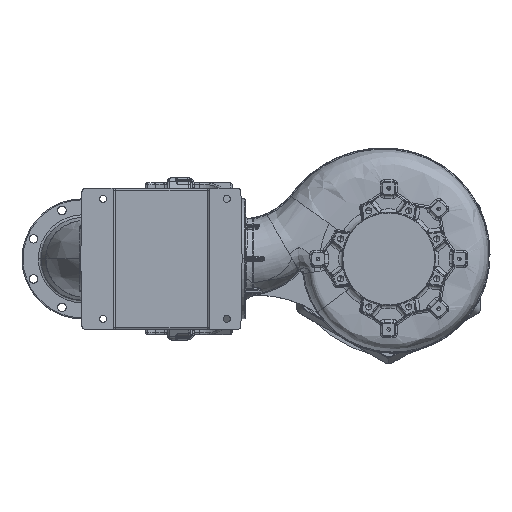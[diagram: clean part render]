
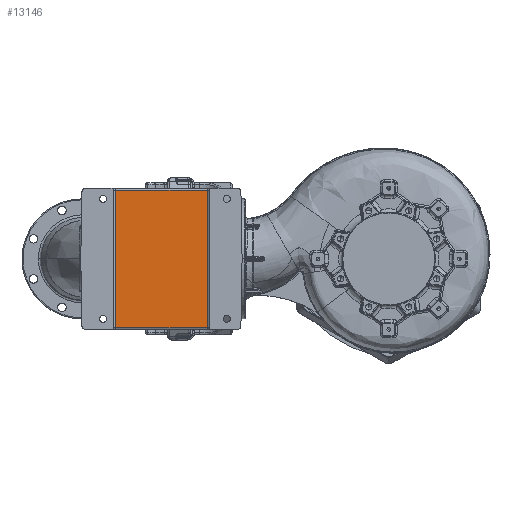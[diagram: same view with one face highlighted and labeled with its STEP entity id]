
A CAD part, front view. The second image highlights one B-rep face of the part: STEP entity #13146.
In plain terms, the highlighted planar face has unit normal (0, -1, 0).
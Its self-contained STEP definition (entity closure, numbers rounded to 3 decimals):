
#8100 = ORIENTED_EDGE ( 'NONE', *, *, #85807, .T. ) ;
#9623 = ORIENTED_EDGE ( 'NONE', *, *, #230051, .T. ) ;
#13146 = ADVANCED_FACE ( 'NONE', ( #120600 ), #285056, .F. ) ;
#25520 = CARTESIAN_POINT ( 'NONE',  ( -514., -666.702, 195. ) ) ;
#34393 = EDGE_CURVE ( 'NONE', #51552, #173764, #52680, .T. ) ;
#51552 = VERTEX_POINT ( 'NONE', #196863 ) ;
#52680 = LINE ( 'NONE', #71330, #222104 ) ;
#65168 = VECTOR ( 'NONE', #134781, 1000. ) ;
#67425 = AXIS2_PLACEMENT_3D ( 'NONE', #282088, #282044, #281792 ) ;
#71330 = CARTESIAN_POINT ( 'NONE',  ( -774., -666.702, -200. ) ) ;
#85807 = EDGE_CURVE ( 'NONE', #140492, #51552, #287356, .T. ) ;
#101903 = ORIENTED_EDGE ( 'NONE', *, *, #186442, .T. ) ;
#102237 = LINE ( 'NONE', #208579, #217387 ) ;
#117834 = DIRECTION ( 'NONE',  ( 0., 0., -1. ) ) ;
#120600 = FACE_OUTER_BOUND ( 'NONE', #122563, .T. ) ;
#122563 = EDGE_LOOP ( 'NONE', ( #101903, #9623, #8100, #150786 ) ) ;
#127473 = CARTESIAN_POINT ( 'NONE',  ( -774., -666.702, -195. ) ) ;
#134781 = DIRECTION ( 'NONE',  ( 1., 0., 0. ) ) ;
#140492 = VERTEX_POINT ( 'NONE', #25520 ) ;
#150786 = ORIENTED_EDGE ( 'NONE', *, *, #34393, .T. ) ;
#155138 = CARTESIAN_POINT ( 'NONE',  ( -779., -666.702, 195. ) ) ;
#161523 = DIRECTION ( 'NONE',  ( 0., 0., 1. ) ) ;
#165486 = VECTOR ( 'NONE', #178201, 1000. ) ;
#173764 = VERTEX_POINT ( 'NONE', #127473 ) ;
#178201 = DIRECTION ( 'NONE',  ( -1., 0., 0. ) ) ;
#184609 = VERTEX_POINT ( 'NONE', #249584 ) ;
#186442 = EDGE_CURVE ( 'NONE', #173764, #184609, #241716, .T. ) ;
#196863 = CARTESIAN_POINT ( 'NONE',  ( -774., -666.702, 195. ) ) ;
#208579 = CARTESIAN_POINT ( 'NONE',  ( -514., -666.702, 200. ) ) ;
#217387 = VECTOR ( 'NONE', #161523, 1000. ) ;
#222104 = VECTOR ( 'NONE', #117834, 1000. ) ;
#230051 = EDGE_CURVE ( 'NONE', #184609, #140492, #102237, .T. ) ;
#241716 = LINE ( 'NONE', #272306, #65168 ) ;
#249584 = CARTESIAN_POINT ( 'NONE',  ( -514., -666.702, -195. ) ) ;
#272306 = CARTESIAN_POINT ( 'NONE',  ( -509., -666.702, -195. ) ) ;
#281792 = DIRECTION ( 'NONE',  ( 0., 0., 1. ) ) ;
#282044 = DIRECTION ( 'NONE',  ( 0., 1., 0. ) ) ;
#282088 = CARTESIAN_POINT ( 'NONE',  ( -779., -666.702, -230. ) ) ;
#285056 = PLANE ( 'NONE',  #67425 ) ;
#287356 = LINE ( 'NONE', #155138, #165486 ) ;
